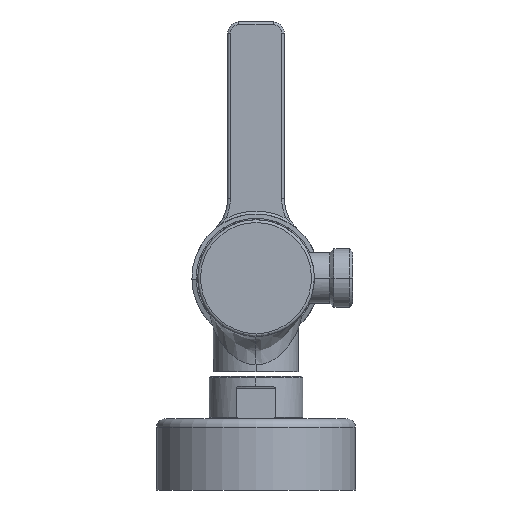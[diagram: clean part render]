
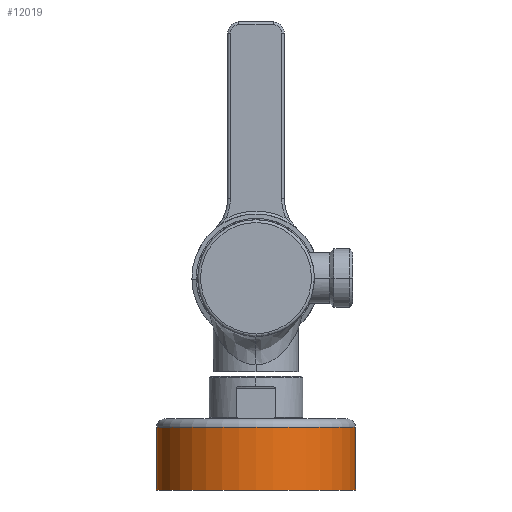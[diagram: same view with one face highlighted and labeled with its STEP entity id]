
A CAD part, left-side view. The second image highlights one B-rep face of the part: STEP entity #12019.
In plain terms, the highlighted cylindrical face has radius 35 mm (diameter 70 mm), a partial arc.
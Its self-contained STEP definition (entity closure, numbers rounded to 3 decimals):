
#11646=DIRECTION('',(0.,0.,-1.));
#11647=VECTOR('',#11646,22.);
#11648=CARTESIAN_POINT('',(-75.,35.,-52.5));
#11649=LINE('',#11648,#11647);
#11650=DIRECTION('',(0.,0.,-1.));
#11651=VECTOR('',#11650,22.);
#11652=CARTESIAN_POINT('',(-75.,-35.,-52.5));
#11653=LINE('',#11652,#11651);
#11659=CARTESIAN_POINT('',(-75.,0.,-52.5));
#11660=DIRECTION('',(0.,0.,1.));
#11661=DIRECTION('',(0.,1.,0.));
#11662=AXIS2_PLACEMENT_3D('',#11659,#11660,#11661);
#11929=CARTESIAN_POINT('',(-75.,0.,-74.5));
#11930=DIRECTION('',(0.,0.,1.));
#11931=DIRECTION('',(0.,1.,0.));
#11932=AXIS2_PLACEMENT_3D('',#11929,#11930,#11931);
#11971=CARTESIAN_POINT('',(-75.,35.,-52.5));
#11973=VERTEX_POINT('',#11971);
#11974=CARTESIAN_POINT('',(-75.,35.,-74.5));
#11975=VERTEX_POINT('',#11974);
#11977=CARTESIAN_POINT('',(-75.,-35.,-52.5));
#11979=VERTEX_POINT('',#11977);
#11980=CARTESIAN_POINT('',(-75.,-35.,-74.5));
#11981=VERTEX_POINT('',#11980);
#12006=CARTESIAN_POINT('',(-75.,0.,-75.75));
#12007=DIRECTION('',(0.,0.,1.));
#12008=DIRECTION('',(0.,-1.,0.));
#12009=AXIS2_PLACEMENT_3D('',#12006,#12007,#12008);
#12010=CYLINDRICAL_SURFACE('',#12009,35.);
#12011=ORIENTED_EDGE('',*,*,#11995,.F.);
#12013=ORIENTED_EDGE('',*,*,#12012,.T.);
#12014=ORIENTED_EDGE('',*,*,#11999,.T.);
#12016=ORIENTED_EDGE('',*,*,#12015,.F.);
#12017=EDGE_LOOP('',(#12011,#12013,#12014,#12016));
#12018=FACE_OUTER_BOUND('',#12017,.F.);
#12019=ADVANCED_FACE('',(#12018),#12010,.T.);
#11663=CIRCLE('',#11662,35.);
#11933=CIRCLE('',#11932,35.);
#11995=EDGE_CURVE('',#11973,#11975,#11649,.T.);
#11999=EDGE_CURVE('',#11979,#11981,#11653,.T.);
#12012=EDGE_CURVE('',#11973,#11979,#11663,.T.);
#12015=EDGE_CURVE('',#11975,#11981,#11933,.T.);
